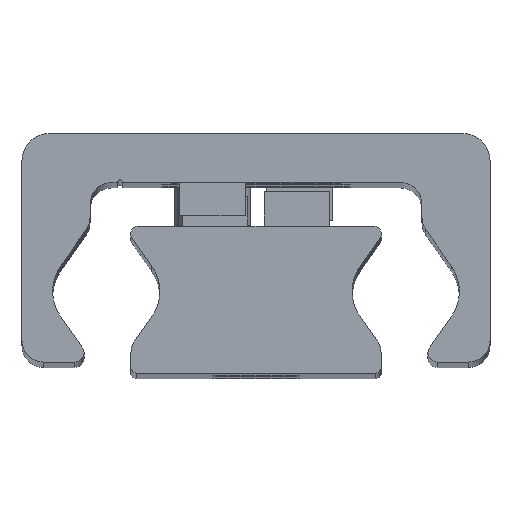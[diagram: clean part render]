
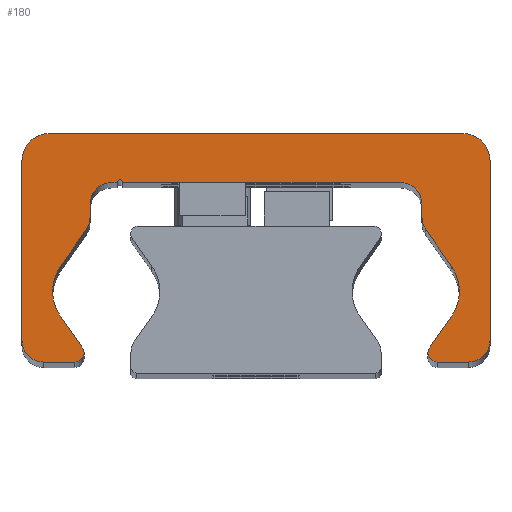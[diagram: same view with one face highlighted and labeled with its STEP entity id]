
A CAD part, top view. The second image highlights one B-rep face of the part: STEP entity #180.
In plain terms, the highlighted planar face has unit normal (0, 0, 1).
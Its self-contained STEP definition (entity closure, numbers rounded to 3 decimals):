
#180=ADVANCED_FACE('',(#434),#435,.T.);
#434=FACE_OUTER_BOUND('',#689,.T.);
#435=PLANE('',#690);
#689=EDGE_LOOP('',(#1578,#1579,#1580,#1581,#1582,#1583,#1584,#1585,#1586,#1587,#1588,#1589,#1590,#1591,#1592,#1593,#1594,#1595,#1596,#1597,#1598,#1599,#1600,#1601,#1602,#1603,#1604,#1605,#1606,#1607));
#690=AXIS2_PLACEMENT_3D('',#1608,#1609,#1610);
#1578=ORIENTED_EDGE('',*,*,#1799,.F.);
#1579=ORIENTED_EDGE('',*,*,#1942,.F.);
#1580=ORIENTED_EDGE('',*,*,#1785,.F.);
#1581=ORIENTED_EDGE('',*,*,#1941,.F.);
#1582=ORIENTED_EDGE('',*,*,#1937,.F.);
#1583=ORIENTED_EDGE('',*,*,#1934,.F.);
#1584=ORIENTED_EDGE('',*,*,#1931,.F.);
#1585=ORIENTED_EDGE('',*,*,#1928,.F.);
#1586=ORIENTED_EDGE('',*,*,#1925,.F.);
#1587=ORIENTED_EDGE('',*,*,#1922,.F.);
#1588=ORIENTED_EDGE('',*,*,#1919,.F.);
#1589=ORIENTED_EDGE('',*,*,#1916,.F.);
#1590=ORIENTED_EDGE('',*,*,#1913,.F.);
#1591=ORIENTED_EDGE('',*,*,#1910,.F.);
#1592=ORIENTED_EDGE('',*,*,#1791,.F.);
#1593=ORIENTED_EDGE('',*,*,#1908,.F.);
#1594=ORIENTED_EDGE('',*,*,#1793,.F.);
#1595=ORIENTED_EDGE('',*,*,#1907,.F.);
#1596=ORIENTED_EDGE('',*,*,#1903,.F.);
#1597=ORIENTED_EDGE('',*,*,#1900,.F.);
#1598=ORIENTED_EDGE('',*,*,#1897,.F.);
#1599=ORIENTED_EDGE('',*,*,#1894,.F.);
#1600=ORIENTED_EDGE('',*,*,#1891,.F.);
#1601=ORIENTED_EDGE('',*,*,#1888,.F.);
#1602=ORIENTED_EDGE('',*,*,#1885,.F.);
#1603=ORIENTED_EDGE('',*,*,#1882,.F.);
#1604=ORIENTED_EDGE('',*,*,#1879,.F.);
#1605=ORIENTED_EDGE('',*,*,#1876,.F.);
#1606=ORIENTED_EDGE('',*,*,#1873,.F.);
#1607=ORIENTED_EDGE('',*,*,#1870,.F.);
#1608=CARTESIAN_POINT('',(-0.023,14.187,290.0));
#1609=DIRECTION('',(0.0,0.0,1.0));
#1610=DIRECTION('',(1.0,0.0,0.0));
#1785=EDGE_CURVE('',#2172,#2175,#2176,.T.);
#1791=EDGE_CURVE('',#2185,#2181,#2187,.T.);
#1793=EDGE_CURVE('',#2188,#2191,#2192,.T.);
#1799=EDGE_CURVE('',#2201,#2197,#2203,.T.);
#1870=EDGE_CURVE('',#2197,#2318,#2319,.T.);
#1873=EDGE_CURVE('',#2318,#2323,#2324,.T.);
#1876=EDGE_CURVE('',#2323,#2328,#2329,.T.);
#1879=EDGE_CURVE('',#2328,#2333,#2334,.T.);
#1882=EDGE_CURVE('',#2333,#2338,#2339,.T.);
#1885=EDGE_CURVE('',#2338,#2343,#2344,.T.);
#1888=EDGE_CURVE('',#2343,#2348,#2349,.T.);
#1891=EDGE_CURVE('',#2348,#2353,#2354,.T.);
#1894=EDGE_CURVE('',#2353,#2358,#2359,.T.);
#1897=EDGE_CURVE('',#2358,#2363,#2364,.T.);
#1900=EDGE_CURVE('',#2363,#2368,#2369,.T.);
#1903=EDGE_CURVE('',#2368,#2373,#2374,.T.);
#1907=EDGE_CURVE('',#2373,#2188,#2379,.T.);
#1908=EDGE_CURVE('',#2191,#2185,#2380,.T.);
#1910=EDGE_CURVE('',#2181,#2382,#2383,.T.);
#1913=EDGE_CURVE('',#2382,#2387,#2388,.T.);
#1916=EDGE_CURVE('',#2387,#2392,#2393,.T.);
#1919=EDGE_CURVE('',#2392,#2397,#2398,.T.);
#1922=EDGE_CURVE('',#2397,#2402,#2403,.T.);
#1925=EDGE_CURVE('',#2402,#2407,#2408,.T.);
#1928=EDGE_CURVE('',#2407,#2412,#2413,.T.);
#1931=EDGE_CURVE('',#2412,#2417,#2418,.T.);
#1934=EDGE_CURVE('',#2417,#2422,#2423,.T.);
#1937=EDGE_CURVE('',#2422,#2427,#2428,.T.);
#1941=EDGE_CURVE('',#2427,#2172,#2433,.T.);
#1942=EDGE_CURVE('',#2175,#2201,#2434,.T.);
#2172=VERTEX_POINT('',#2748);
#2175=VERTEX_POINT('',#2752);
#2176=CIRCLE('',#2753,0.85);
#2181=VERTEX_POINT('',#2759);
#2185=VERTEX_POINT('',#2764);
#2187=CIRCLE('',#2767,0.85);
#2188=VERTEX_POINT('',#2768);
#2191=VERTEX_POINT('',#2772);
#2192=CIRCLE('',#2773,4.);
#2197=VERTEX_POINT('',#2779);
#2201=VERTEX_POINT('',#2784);
#2203=CIRCLE('',#2787,4.);
#2318=VERTEX_POINT('',#2944);
#2319=CIRCLE('',#2945,4.);
#2323=VERTEX_POINT('',#2950);
#2324=LINE('',#2951,#2952);
#2328=VERTEX_POINT('',#2958);
#2329=CIRCLE('',#2959,2.);
#2333=VERTEX_POINT('',#2964);
#2334=LINE('',#2965,#2966);
#2338=VERTEX_POINT('',#2972);
#2339=CIRCLE('',#2973,2.0);
#2343=VERTEX_POINT('',#2978);
#2344=LINE('',#2979,#2980);
#2348=VERTEX_POINT('',#2986);
#2349=CIRCLE('',#2987,0.25);
#2353=VERTEX_POINT('',#2992);
#2354=LINE('',#2993,#2994);
#2358=VERTEX_POINT('',#3000);
#2359=CIRCLE('',#3001,2.0);
#2363=VERTEX_POINT('',#3006);
#2364=LINE('',#3007,#3008);
#2368=VERTEX_POINT('',#3014);
#2369=CIRCLE('',#3015,2.0);
#2373=VERTEX_POINT('',#3020);
#2374=LINE('',#3021,#3022);
#2379=CIRCLE('',#3029,4.);
#2380=LINE('',#3030,#3031);
#2382=VERTEX_POINT('',#3034);
#2383=CIRCLE('',#3035,0.85);
#2387=VERTEX_POINT('',#3040);
#2388=LINE('',#3041,#3042);
#2392=VERTEX_POINT('',#3048);
#2393=CIRCLE('',#3049,2.);
#2397=VERTEX_POINT('',#3054);
#2398=LINE('',#3055,#3056);
#2402=VERTEX_POINT('',#3062);
#2403=CIRCLE('',#3063,2.5);
#2407=VERTEX_POINT('',#3068);
#2408=LINE('',#3069,#3070);
#2412=VERTEX_POINT('',#3076);
#2413=CIRCLE('',#3077,2.5);
#2417=VERTEX_POINT('',#3082);
#2418=LINE('',#3083,#3084);
#2422=VERTEX_POINT('',#3090);
#2423=CIRCLE('',#3091,2.);
#2427=VERTEX_POINT('',#3096);
#2428=LINE('',#3097,#3098);
#2433=CIRCLE('',#3105,0.85);
#2434=LINE('',#3106,#3107);
#2748=CARTESIAN_POINT('',(15.8,1.859,290.0));
#2752=CARTESIAN_POINT('',(15.922,2.298,290.0));
#2753=AXIS2_PLACEMENT_3D('',#3363,#3364,#3365);
#2759=CARTESIAN_POINT('',(-15.8,1.859,290.0));
#2764=CARTESIAN_POINT('',(-15.922,2.298,290.0));
#2767=AXIS2_PLACEMENT_3D('',#3375,#3376,#3377);
#2768=CARTESIAN_POINT('',(-18.688,7.509,290.0));
#2772=CARTESIAN_POINT('',(-17.964,5.214,290.0));
#2773=AXIS2_PLACEMENT_3D('',#3379,#3380,#3381);
#2779=CARTESIAN_POINT('',(18.688,7.509,290.0));
#2784=CARTESIAN_POINT('',(17.964,5.214,290.0));
#2787=AXIS2_PLACEMENT_3D('',#3391,#3392,#3393);
#2944=CARTESIAN_POINT('',(17.964,9.803,290.0));
#2945=AXIS2_PLACEMENT_3D('',#3520,#3521,#3522);
#2950=CARTESIAN_POINT('',(15.612,13.163,290.0));
#2951=CARTESIAN_POINT('',(15.612,13.163,290.0));
#2952=VECTOR('',#3527,1.0);
#2958=CARTESIAN_POINT('',(15.25,14.31,290.0));
#2959=AXIS2_PLACEMENT_3D('',#3530,#3531,#3532);
#2964=CARTESIAN_POINT('',(15.25,15.509,290.0));
#2965=CARTESIAN_POINT('',(15.25,15.509,290.0));
#2966=VECTOR('',#3537,1.0);
#2972=CARTESIAN_POINT('',(13.25,17.509,290.0));
#2973=AXIS2_PLACEMENT_3D('',#3540,#3541,#3542);
#2978=CARTESIAN_POINT('',(-12.25,17.509,290.0));
#2979=CARTESIAN_POINT('',(-12.25,17.509,290.0));
#2980=VECTOR('',#3547,1.0);
#2986=CARTESIAN_POINT('',(-12.75,17.509,290.0));
#2987=AXIS2_PLACEMENT_3D('',#3550,#3551,#3552);
#2992=CARTESIAN_POINT('',(-13.25,17.509,290.0));
#2993=CARTESIAN_POINT('',(-13.25,17.509,290.0));
#2994=VECTOR('',#3557,1.0);
#3000=CARTESIAN_POINT('',(-15.25,15.509,290.0));
#3001=AXIS2_PLACEMENT_3D('',#3560,#3561,#3562);
#3006=CARTESIAN_POINT('',(-15.25,14.31,290.0));
#3007=CARTESIAN_POINT('',(-15.25,14.31,290.0));
#3008=VECTOR('',#3567,1.0);
#3014=CARTESIAN_POINT('',(-15.612,13.163,290.0));
#3015=AXIS2_PLACEMENT_3D('',#3570,#3571,#3572);
#3020=CARTESIAN_POINT('',(-17.964,9.803,290.0));
#3021=CARTESIAN_POINT('',(-17.964,9.803,290.0));
#3022=VECTOR('',#3577,1.0);
#3029=AXIS2_PLACEMENT_3D('',#3583,#3584,#3585);
#3030=CARTESIAN_POINT('',(-15.922,2.298,290.0));
#3031=VECTOR('',#3586,1.0);
#3034=CARTESIAN_POINT('',(-16.65,1.009,290.0));
#3035=AXIS2_PLACEMENT_3D('',#3588,#3589,#3590);
#3040=CARTESIAN_POINT('',(-19.5,1.009,290.0));
#3041=CARTESIAN_POINT('',(-19.5,1.009,290.0));
#3042=VECTOR('',#3595,1.0);
#3048=CARTESIAN_POINT('',(-21.5,3.009,290.0));
#3049=AXIS2_PLACEMENT_3D('',#3598,#3599,#3600);
#3054=CARTESIAN_POINT('',(-21.5,19.509,290.0));
#3055=CARTESIAN_POINT('',(-21.5,19.509,290.0));
#3056=VECTOR('',#3605,1.0);
#3062=CARTESIAN_POINT('',(-19.0,22.009,290.0));
#3063=AXIS2_PLACEMENT_3D('',#3608,#3609,#3610);
#3068=CARTESIAN_POINT('',(19.0,22.009,290.0));
#3069=CARTESIAN_POINT('',(19.0,22.009,290.0));
#3070=VECTOR('',#3615,1.0);
#3076=CARTESIAN_POINT('',(21.5,19.509,290.0));
#3077=AXIS2_PLACEMENT_3D('',#3618,#3619,#3620);
#3082=CARTESIAN_POINT('',(21.5,3.009,290.0));
#3083=CARTESIAN_POINT('',(21.5,3.009,290.0));
#3084=VECTOR('',#3625,1.0);
#3090=CARTESIAN_POINT('',(19.5,1.009,290.0));
#3091=AXIS2_PLACEMENT_3D('',#3628,#3629,#3630);
#3096=CARTESIAN_POINT('',(16.65,1.009,290.0));
#3097=CARTESIAN_POINT('',(16.65,1.009,290.0));
#3098=VECTOR('',#3635,1.0);
#3105=AXIS2_PLACEMENT_3D('',#3641,#3642,#3643);
#3106=CARTESIAN_POINT('',(17.964,5.214,290.0));
#3107=VECTOR('',#3644,1.0);
#3363=CARTESIAN_POINT('',(16.65,1.859,290.0));
#3364=DIRECTION('',(0.0,0.0,-1.0));
#3365=DIRECTION('',(1.0,0.0,0.0));
#3375=CARTESIAN_POINT('',(-16.65,1.859,290.0));
#3376=DIRECTION('',(0.0,0.0,-1.0));
#3377=DIRECTION('',(1.0,0.0,0.0));
#3379=CARTESIAN_POINT('',(-14.688,7.509,290.0));
#3380=DIRECTION('',(0.0,0.0,1.0));
#3381=DIRECTION('',(1.0,0.0,0.0));
#3391=CARTESIAN_POINT('',(14.688,7.509,290.0));
#3392=DIRECTION('',(0.0,0.0,1.0));
#3393=DIRECTION('',(1.0,0.0,0.0));
#3520=CARTESIAN_POINT('',(14.688,7.509,290.0));
#3521=DIRECTION('',(0.0,0.0,1.0));
#3522=DIRECTION('',(1.0,0.0,0.0));
#3527=DIRECTION('',(-0.574,0.819,0.0));
#3530=CARTESIAN_POINT('',(17.25,14.31,290.0));
#3531=DIRECTION('',(0.0,0.0,-1.0));
#3532=DIRECTION('',(1.0,0.0,0.0));
#3537=DIRECTION('',(0.0,1.0,0.0));
#3540=CARTESIAN_POINT('',(13.25,15.509,290.0));
#3541=DIRECTION('',(0.0,0.0,1.0));
#3542=DIRECTION('',(1.0,0.0,0.0));
#3547=DIRECTION('',(-1.0,-0.0,-0.0));
#3550=CARTESIAN_POINT('',(-12.5,17.509,290.0));
#3551=DIRECTION('',(0.0,0.0,1.0));
#3552=DIRECTION('',(1.0,0.0,0.0));
#3557=DIRECTION('',(-1.0,-0.0,-0.0));
#3560=CARTESIAN_POINT('',(-13.25,15.509,290.0));
#3561=DIRECTION('',(0.0,0.0,1.0));
#3562=DIRECTION('',(1.0,0.0,0.0));
#3567=DIRECTION('',(-0.0,-1.0,-0.0));
#3570=CARTESIAN_POINT('',(-17.25,14.31,290.0));
#3571=DIRECTION('',(0.0,0.0,-1.0));
#3572=DIRECTION('',(1.0,0.0,0.0));
#3577=DIRECTION('',(-0.574,-0.819,-0.0));
#3583=CARTESIAN_POINT('',(-14.688,7.509,290.0));
#3584=DIRECTION('',(0.0,0.0,1.0));
#3585=DIRECTION('',(1.0,0.0,0.0));
#3586=DIRECTION('',(0.574,-0.819,0.0));
#3588=CARTESIAN_POINT('',(-16.65,1.859,290.0));
#3589=DIRECTION('',(0.0,0.0,-1.0));
#3590=DIRECTION('',(1.0,0.0,0.0));
#3595=DIRECTION('',(-1.0,-0.0,-0.0));
#3598=CARTESIAN_POINT('',(-19.5,3.009,290.0));
#3599=DIRECTION('',(0.0,0.0,-1.0));
#3600=DIRECTION('',(1.0,0.0,0.0));
#3605=DIRECTION('',(0.0,1.0,0.0));
#3608=CARTESIAN_POINT('',(-19.0,19.509,290.0));
#3609=DIRECTION('',(0.0,0.0,-1.0));
#3610=DIRECTION('',(1.0,0.0,0.0));
#3615=DIRECTION('',(1.0,0.0,0.0));
#3618=CARTESIAN_POINT('',(19.0,19.509,290.0));
#3619=DIRECTION('',(0.0,0.0,-1.0));
#3620=DIRECTION('',(1.0,0.0,0.0));
#3625=DIRECTION('',(-0.0,-1.0,-0.0));
#3628=CARTESIAN_POINT('',(19.5,3.009,290.0));
#3629=DIRECTION('',(0.0,0.0,-1.0));
#3630=DIRECTION('',(1.0,0.0,0.0));
#3635=DIRECTION('',(-1.0,-0.0,-0.0));
#3641=CARTESIAN_POINT('',(16.65,1.859,290.0));
#3642=DIRECTION('',(0.0,0.0,-1.0));
#3643=DIRECTION('',(1.0,0.0,0.0));
#3644=DIRECTION('',(0.574,0.819,0.0));
